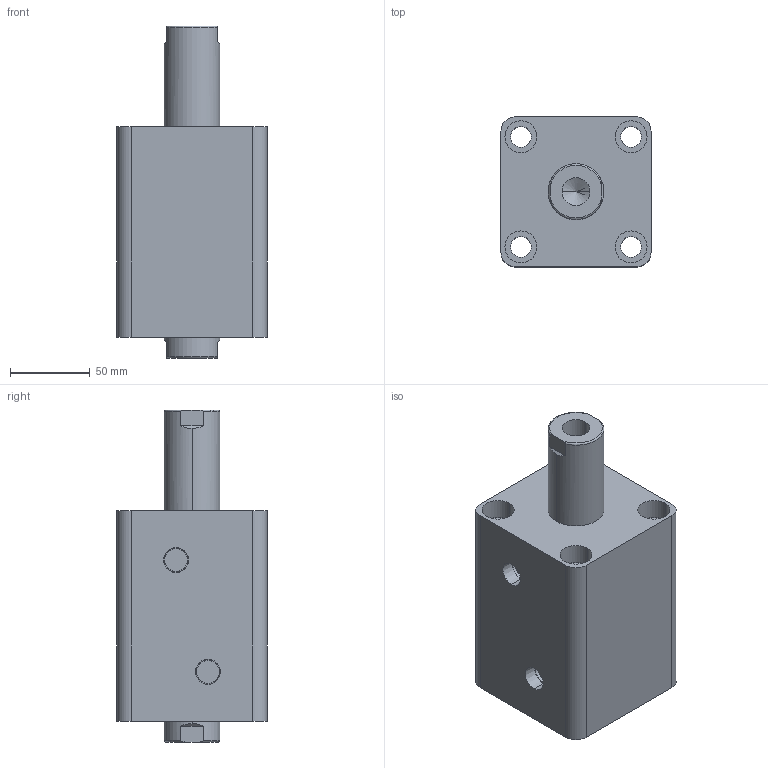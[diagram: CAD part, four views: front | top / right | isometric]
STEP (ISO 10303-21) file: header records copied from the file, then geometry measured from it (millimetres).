
FILE_DESCRIPTION (( 'STEP AP203' ), '1' );
FILE_NAME ('HTB-SW63-50N.STEP', '2019-10-07T10:05:29', ( '微软用户' ), ( '微软中国' ), 'SwSTEP 2.0', 'SolidWorks 2012', '' );
FILE_SCHEMA (( 'CONFIG_CONTROL_DESIGN' ));
Length unit declared in the file: millimetre
Products named in the file (3): HTB-SW63-50N; HTB-SW63-50N活塞杆; HTB-SW63-50掛极
Assembly tree (2 placements, depth 2):
  HTB-SW63-50N
    HTB-SW63-50掛极
    HTB-SW63-50N活塞杆
Bounding box: 94 x 94 x 208 mm (x, y, z)
Volume: 1018780.4 mm3; surface area: 144684 mm2
Topology: 2 solids, 2 shells, 100 faces, 228 edges, 146 vertices
Faces by surface type: cylinder 48, plane 32, torus 12, cone 8
Entity records: 3253 total; most frequent: CARTESIAN_POINT 611, DIRECTION 542, ORIENTED_EDGE 448, AXIS2_PLACEMENT_3D 229, EDGE_CURVE 224, VERTEX_POINT 146, EDGE_LOOP 128, CIRCLE 124
